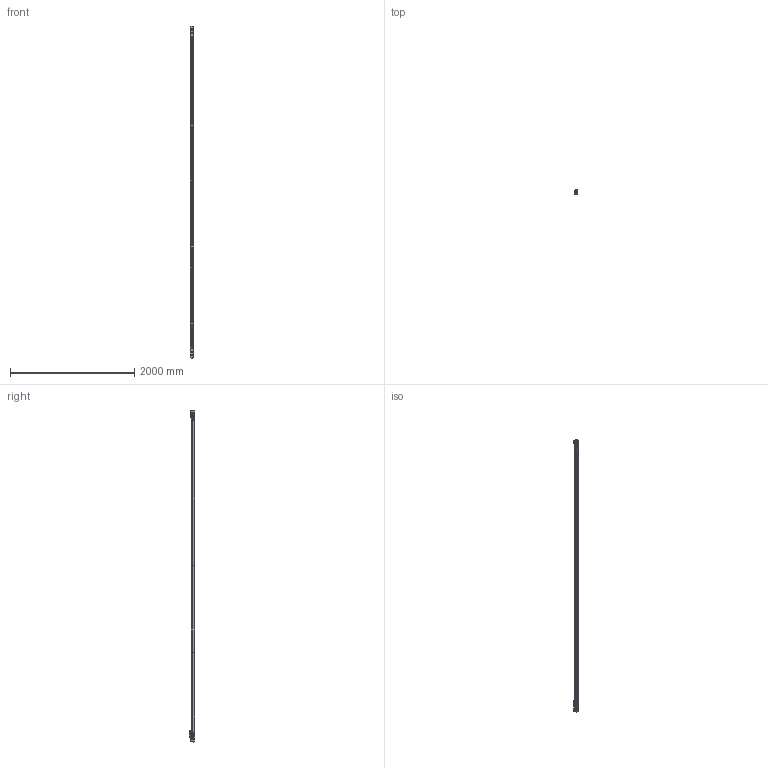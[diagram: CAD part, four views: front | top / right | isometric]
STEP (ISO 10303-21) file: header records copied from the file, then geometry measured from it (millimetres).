
FILE_DESCRIPTION(('Creo Elements/Direct Modeling STEP Export'),'2;1');
FILE_NAME('L-50.stp','2011-11-29T18:31:42',(''),(''),'Creo Elements/Direct Modeling STEP processor for AP214 (Solid Model)','Creo Elements/Direct Modeling 17.0C 05-Feb-2011 (C) Parametric Technology GmbH','');
FILE_SCHEMA(('AUTOMOTIVE_DESIGN { 1 0 10303 214 1 1 1 1 }'));
Length unit declared in the file: millimetre
Products named in the file (5): Modulos_intermedio_(FL-14); Modulo_der_(22-ET); CABEZA; Modulo_izq_(L-KT); L-50
Assembly tree (4 placements, depth 2):
  L-50
    Modulo_izq_(L-KT)
    CABEZA
    Modulo_der_(22-ET)
    Modulos_intermedio_(FL-14)
Bounding box: 51.5 x 87.95 x 5349.1 mm (x, y, z)
Volume: 7321347.2 mm3; surface area: 1620099.4 mm2
Topology: 25 solids, 72 shells, 3555 faces, 9822 edges, 6353 vertices
Faces by surface type: cylinder 1599, plane 1478, cone 230, torus 140, bspline 62, sphere 26, extrusion 20
Entity records: 131291 total; most frequent: CARTESIAN_POINT 38485, ORIENTED_EDGE 19626, DIRECTION 17498, EDGE_CURVE 9793, VERTEX_POINT 6351, AXIS2_PLACEMENT_3D 6220, VECTOR 5058, LINE 5038
